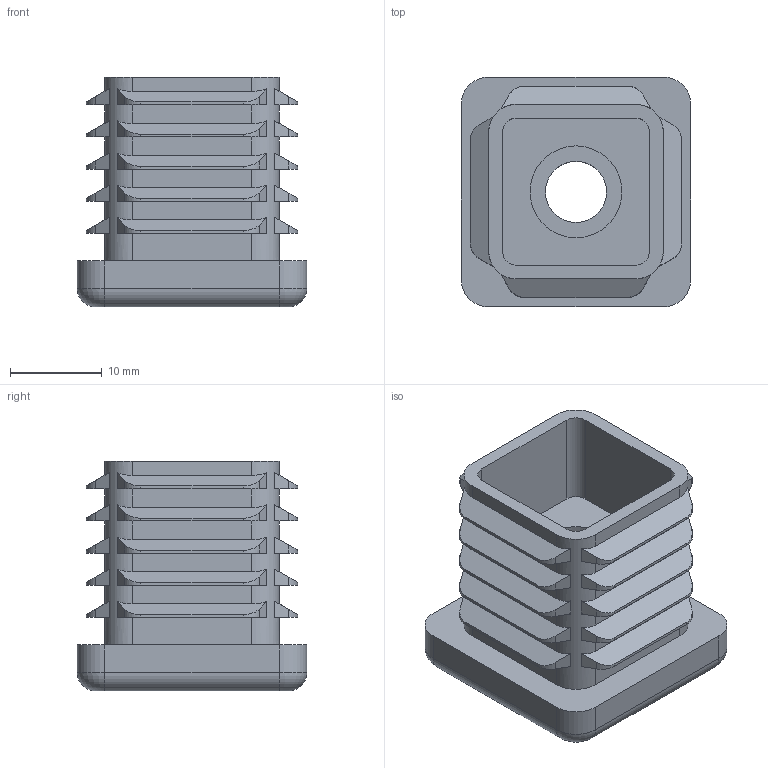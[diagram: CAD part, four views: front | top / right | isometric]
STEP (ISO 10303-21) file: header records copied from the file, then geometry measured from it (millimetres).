
FILE_DESCRIPTION (( 'STEP AP214' ), '1' );
FILE_NAME ('BTC44-M8.STEP', '2012-02-21T08:07:14', ( 'gs' ), ( 'Microsoft' ), 'SwSTEP 2.0', 'SolidWorks 2011', '' );
FILE_SCHEMA (( 'AUTOMOTIVE_DESIGN' ));
Length unit declared in the file: millimetre
Products named in the file (3): BTC44-M84662721; BTC44-M84662722; BTC44-M8
Assembly tree (2 placements, depth 2):
  BTC44-M8
    BTC44-M84662721
    BTC44-M84662722
Bounding box: 25 x 25 x 25 mm (x, y, z)
Volume: 7331.9 mm3; surface area: 5724.5 mm2
Topology: 2 solids, 2 shells, 218 faces, 622 edges, 412 vertices
Faces by surface type: plane 152, cylinder 62, torus 4
Entity records: 7210 total; most frequent: CARTESIAN_POINT 1497, ORIENTED_EDGE 1244, DIRECTION 1116, EDGE_CURVE 622, LINE 414, VECTOR 414, VERTEX_POINT 412, AXIS2_PLACEMENT_3D 351
